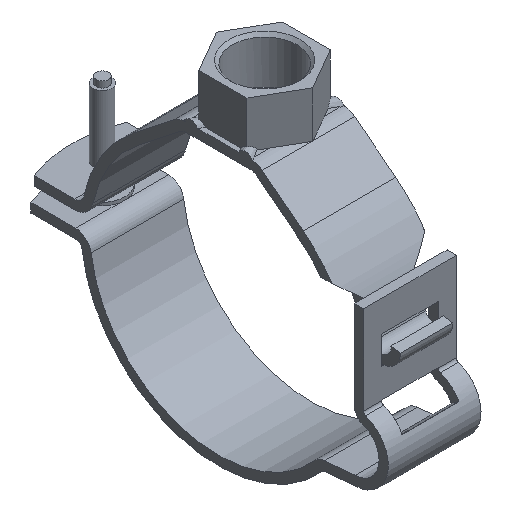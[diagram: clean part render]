
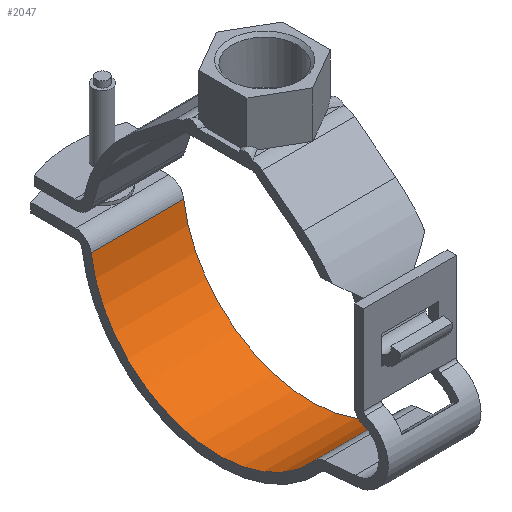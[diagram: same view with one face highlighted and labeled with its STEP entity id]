
A CAD part, isometric view. The second image highlights one B-rep face of the part: STEP entity #2047.
In plain terms, the highlighted cylindrical face has radius 41.5 mm (diameter 83 mm), a partial arc.
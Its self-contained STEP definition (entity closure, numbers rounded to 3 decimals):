
#111=LINE('',#3182,#297);
#112=LINE('',#3184,#298);
#297=VECTOR('',#2590,30.);
#298=VECTOR('',#2593,30.);
#529=FACE_OUTER_BOUND('',#647,.T.);
#647=EDGE_LOOP('',(#1540,#1541,#1542,#1543));
#747=CIRCLE('',#2178,41.5);
#750=CIRCLE('',#2182,41.5);
#888=VERTEX_POINT('',#3125);
#889=VERTEX_POINT('',#3127);
#892=VERTEX_POINT('',#3135);
#893=VERTEX_POINT('',#3137);
#1104=EDGE_CURVE('',#888,#889,#747,.T.);
#1109=EDGE_CURVE('',#892,#893,#750,.T.);
#1131=EDGE_CURVE('',#888,#893,#111,.T.);
#1132=EDGE_CURVE('',#889,#892,#112,.T.);
#1540=ORIENTED_EDGE('',*,*,#1131,.T.);
#1541=ORIENTED_EDGE('',*,*,#1109,.F.);
#1542=ORIENTED_EDGE('',*,*,#1132,.F.);
#1543=ORIENTED_EDGE('',*,*,#1104,.F.);
#1874=CYLINDRICAL_SURFACE('',#2202,41.5);
#2047=ADVANCED_FACE('',(#529),#1874,.F.);
#2178=AXIS2_PLACEMENT_3D('',#3128,#2524,#2525);
#2182=AXIS2_PLACEMENT_3D('',#3138,#2534,#2535);
#2202=AXIS2_PLACEMENT_3D('',#3183,#2591,#2592);
#2524=DIRECTION('center_axis',(1.,0.,0.));
#2525=DIRECTION('ref_axis',(0.,0.748,0.663));
#2534=DIRECTION('center_axis',(-1.,0.,0.));
#2535=DIRECTION('ref_axis',(0.,0.748,0.663));
#2590=DIRECTION('',(1.,0.,0.));
#2591=DIRECTION('center_axis',(1.,0.,0.));
#2592=DIRECTION('ref_axis',(0.,0.748,0.663));
#2593=DIRECTION('',(1.,0.,0.));
#3125=CARTESIAN_POINT('',(-15.,-31.058,-27.525));
#3127=CARTESIAN_POINT('',(-15.,41.153,-5.355));
#3128=CARTESIAN_POINT('Origin',(-15.,0.,0.));
#3135=CARTESIAN_POINT('',(15.,41.153,-5.355));
#3137=CARTESIAN_POINT('',(15.,-31.058,-27.525));
#3138=CARTESIAN_POINT('Origin',(15.,0.,0.));
#3182=CARTESIAN_POINT('',(0.,-31.058,-27.525));
#3183=CARTESIAN_POINT('Origin',(0.,0.,0.));
#3184=CARTESIAN_POINT('',(0.,41.153,-5.355));
